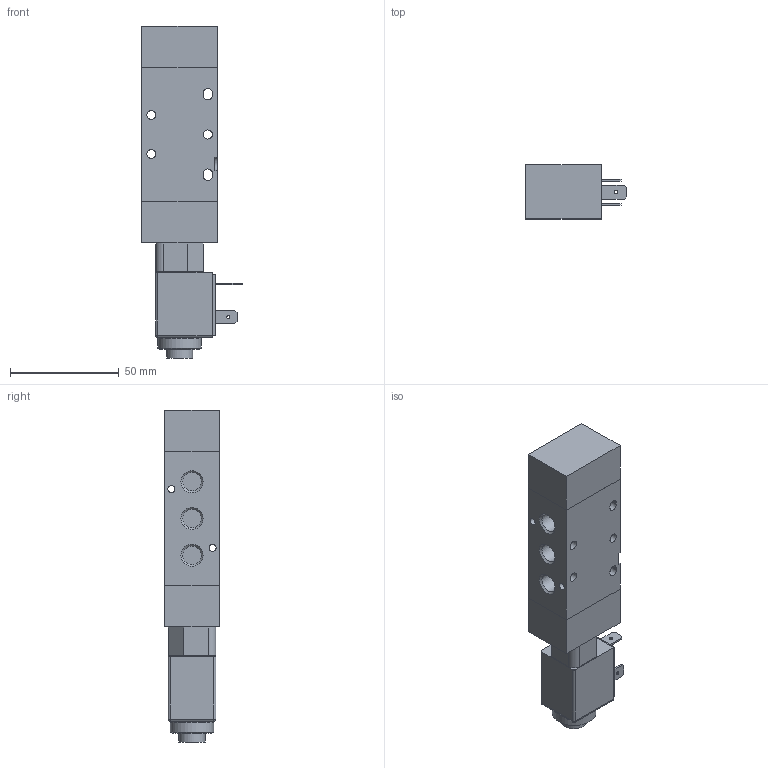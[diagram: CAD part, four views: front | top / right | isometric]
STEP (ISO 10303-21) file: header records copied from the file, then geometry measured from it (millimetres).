
FILE_DESCRIPTION((''),'2;1');
FILE_NAME('K:\A-Roberto\_Inventor\Rev.Librerie\TECNOECO\T488_52_0_12._##.stp','2006-10-06T08:48:13',('rivolro1'),(''),'Autodesk Inventor 11','Autodesk Inventor 11','');
FILE_SCHEMA(('AUTOMOTIVE_DESIGN { 1 0 10303 214 1 1 1 1 }'));
Length unit declared in the file: millimetre
Products named in the file (3): T488_52_0_12._##; T488_52_0_12; MB
Assembly tree (2 placements, depth 2):
  T488_52_0_12._##
    T488_52_0_12
    MB
Bounding box: 46.5 x 25 x 153 mm (x, y, z)
Volume: 108019.3 mm3; surface area: 25618.3 mm2
Topology: 2 solids, 2 shells, 136 faces, 313 edges, 203 vertices
Faces by surface type: plane 75, bspline 29, cylinder 28, cone 2, sphere 2
Full cylindrical faces by diameter (mm): 4.2 x3, 7.4 x1, 7.8 x1, 8 x1, 8.2 x1, 9.8 x1, 10.1 x1, 10.2 x1, 10.7 x1, 12 x1, 13.5 x1, 16.2 x1, 20 x1
Entity records: 3986 total; most frequent: CARTESIAN_POINT 999, DIRECTION 581, ORIENTED_EDGE 532, EDGE_CURVE 266, EDGE_LOOP 221, AXIS2_PLACEMENT_3D 203, VERTEX_POINT 197, VECTOR 175
